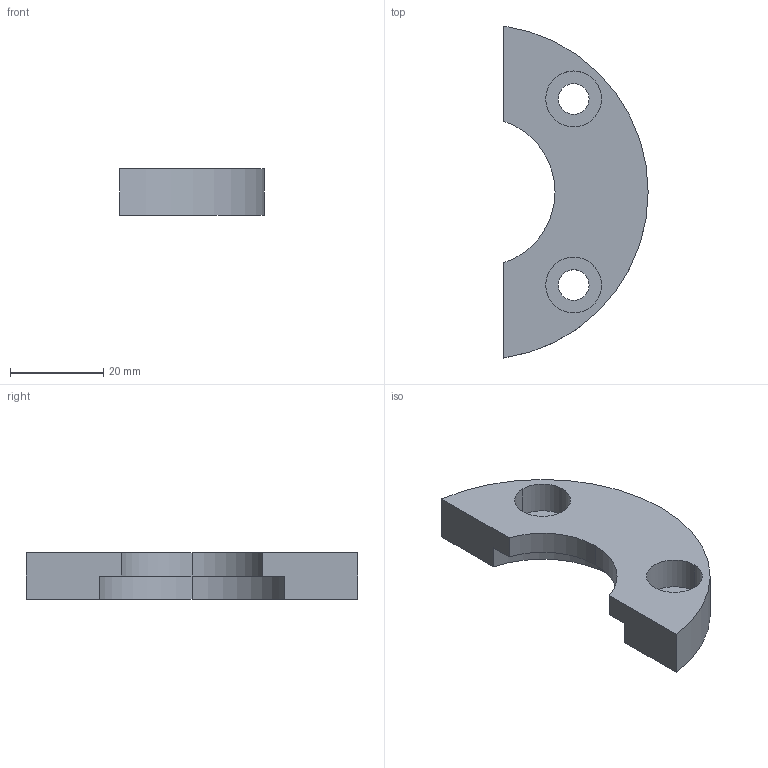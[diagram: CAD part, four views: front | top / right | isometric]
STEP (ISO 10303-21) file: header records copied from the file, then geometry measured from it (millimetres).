
FILE_DESCRIPTION (( 'STEP AP214' ), '1' );
FILE_NAME ('BR101-08-032.STEP', '2020-10-13T11:00:47', ( 'August' ), ( '' ), 'SwSTEP 2.0', 'SolidWorks 2018', '' );
FILE_SCHEMA (( 'AUTOMOTIVE_DESIGN' ));
Length unit declared in the file: millimetre
Products named in the file (1): BR101-08-032
Bounding box: 31 x 71.3 x 10 mm (x, y, z)
Volume: 11470.8 mm3; surface area: 5244.5 mm2
Topology: 1 solids, 1 shells, 21 faces, 51 edges, 34 vertices
Faces by surface type: cylinder 14, plane 7
Entity records: 675 total; most frequent: DIRECTION 123, CARTESIAN_POINT 107, ORIENTED_EDGE 102, EDGE_CURVE 51, AXIS2_PLACEMENT_3D 50, VERTEX_POINT 34, CIRCLE 28, EDGE_LOOP 27
